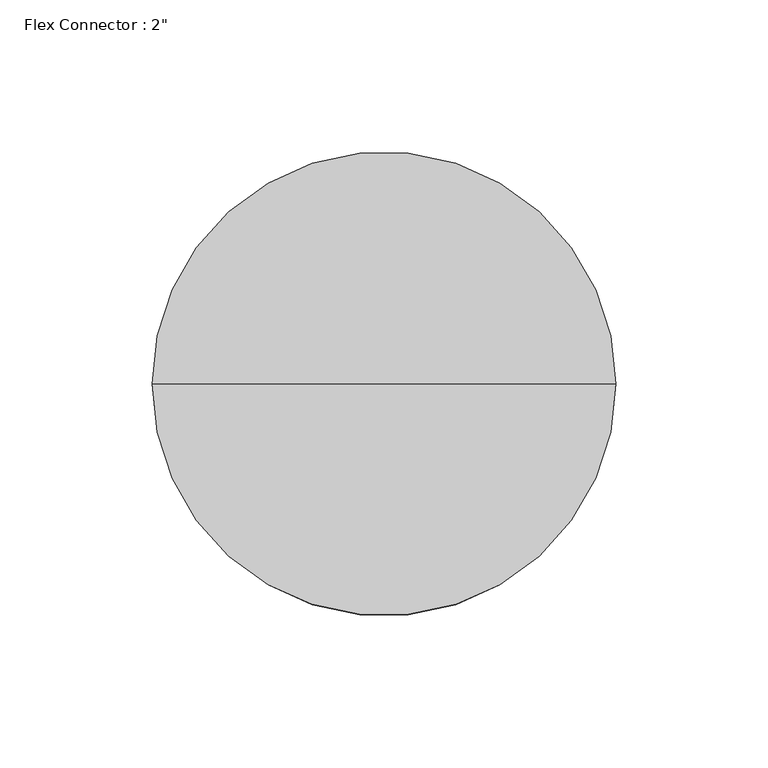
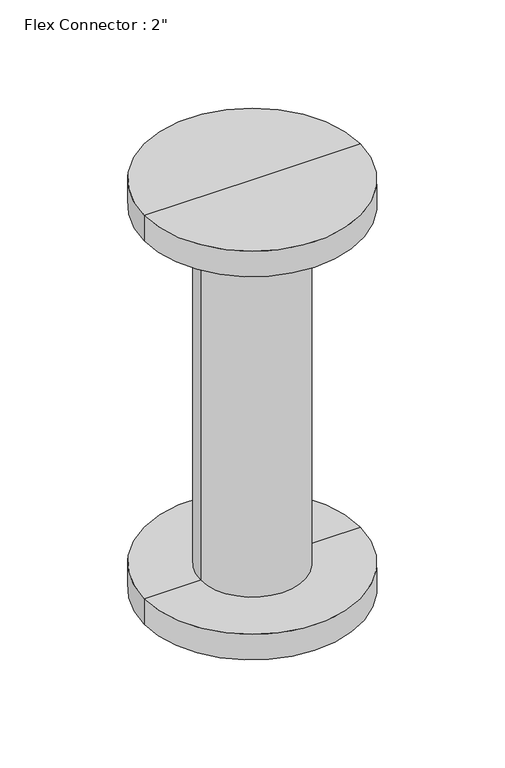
"""IFC4 building model written with IfcOpenShell, lengths in millimetres: valve geometry."""

from ifc_helpers import new_model, si_unit, frame, origin, place, context, project, spatial, circle_curve, source, transform, mapped, element, save
from ifc_brep_helpers import plane_surface, cylinder_surface, advanced_brep


def valve_64b1ed24(model_context):
    return source(origin(), model_context, "Body", "AdvancedBrep", [
        advanced_brep(
        [(36.5125, 0.0, 19.05), (-36.5125, 0.0, 19.05), (-36.5125, 0.0, 285.75), (36.5125, 0.0, 285.75), (0.0, 0.0, 19.05), (0.0, 0.0, 285.75)],
        [
            (0, 1, circle_curve(frame((0.0, 0.0, 19.05), z_axis=(0.0, 0.0, 1.0), x_axis=(-1.0, 0.0, 0.0)), 36.5125)),
            (1, 2),
            (2, 3, circle_curve(frame((0.0, 0.0, 285.75), z_axis=(0.0, 0.0, -1.0), x_axis=(-1.0, 0.0, 0.0)), 36.5125)),
            (3, 0),
            (1, 0, circle_curve(frame((0.0, 0.0, 19.05), z_axis=(0.0, 0.0, 1.0), x_axis=(-1.0, 0.0, 0.0)), 36.5125)),
            (3, 2, circle_curve(frame((0.0, 0.0, 285.75), z_axis=(0.0, 0.0, -1.0), x_axis=(-1.0, 0.0, 0.0)), 36.5125)),
            (4, 1),
            (0, 4),
            (2, 5),
            (5, 3),
        ],
        [
            cylinder_surface(frame((0.0, 0.0, 2613.8206012), z_axis=(0.0, 0.0, -1.0), x_axis=(-1.0, 0.0, 0.0)), 36.5125),
            plane_surface(frame((0.0, 0.0, 19.05), z_axis=(0.0, 0.0, -1.0), x_axis=(-1.0, 0.0, 0.0))),
            plane_surface(frame((0.0, 0.0, 285.75), z_axis=(0.0, 0.0, 1.0), x_axis=(-1.0, 0.0, 0.0))),
        ],
        [
            (0, [[1, 2, 3, 4]]),
            (0, [[5, -4, 6, -2]]),
            (1, [[7, -1, 8]]),
            (1, [[-8, -5, -7]]),
            (2, [[-3, 9, 10]]),
            (2, [[-6, -10, -9]]),
        ],
    ),
        advanced_brep(
        [(0.0, 0.0, 0.0), (-76.2, 0.0, 0.0), (76.2, 0.0, 0.0), (76.2, 0.0, 19.05), (-76.2, 0.0, 19.05), (0.0, 0.0, 19.05)],
        [
            (0, 1),
            (1, 2, circle_curve(frame((0.0, 0.0, 0.0), z_axis=(0.0, 0.0, -1.0), x_axis=(-1.0, 0.0, 0.0)), 76.2)),
            (2, 0),
            (2, 1, circle_curve(frame((0.0, 0.0, 0.0), z_axis=(0.0, 0.0, -1.0), x_axis=(-1.0, 0.0, 0.0)), 76.2)),
            (3, 4, circle_curve(frame((0.0, 0.0, 19.05), z_axis=(0.0, 0.0, 1.0), x_axis=(-1.0, 0.0, 0.0)), 76.2)),
            (4, 5),
            (5, 3),
            (4, 3, circle_curve(frame((0.0, 0.0, 19.05), z_axis=(0.0, 0.0, 1.0), x_axis=(-1.0, 0.0, 0.0)), 76.2)),
            (1, 4),
            (3, 2),
        ],
        [
            plane_surface(frame((0.0, 0.0, 0.0), z_axis=(0.0, 0.0, -1.0), x_axis=(-1.0, 0.0, 0.0))),
            plane_surface(frame((0.0, 0.0, 19.05), z_axis=(0.0, 0.0, 1.0), x_axis=(-1.0, 0.0, 0.0))),
            cylinder_surface(frame((0.0, 0.0, 2609.0581012), z_axis=(0.0, 0.0, -1.0), x_axis=(-1.0, 0.0, 0.0)), 76.2),
        ],
        [
            (0, [[1, 2, 3]]),
            (0, [[-3, 4, -1]]),
            (1, [[5, 6, 7]]),
            (1, [[8, -7, -6]]),
            (2, [[-2, 9, -5, 10]]),
            (2, [[-4, -10, -8, -9]]),
        ],
    ),
        advanced_brep(
        [(76.2, 0.0, 304.8), (-76.2, 0.0, 304.8), (0.0, 0.0, 304.8), (76.2, 0.0, 285.75), (-76.2, 0.0, 285.75), (0.0, 0.0, 285.75)],
        [
            (0, 1, circle_curve(frame((0.0, 0.0, 304.8), z_axis=(0.0, 0.0, 1.0), x_axis=(-1.0, 0.0, 0.0)), 76.2)),
            (1, 2),
            (2, 0),
            (1, 0, circle_curve(frame((0.0, 0.0, 304.8), z_axis=(0.0, 0.0, 1.0), x_axis=(-1.0, 0.0, 0.0)), 76.2)),
            (3, 4, circle_curve(frame((0.0, 0.0, 285.75), z_axis=(0.0, 0.0, 1.0), x_axis=(-1.0, 0.0, 0.0)), 76.2)),
            (4, 1),
            (0, 3),
            (4, 3, circle_curve(frame((0.0, 0.0, 285.75), z_axis=(0.0, 0.0, 1.0), x_axis=(-1.0, 0.0, 0.0)), 76.2)),
            (5, 4),
            (3, 5),
        ],
        [
            plane_surface(frame((0.0, 0.0, 304.8), z_axis=(0.0, 0.0, 1.0), x_axis=(-1.0, 0.0, 0.0))),
            cylinder_surface(frame((0.0, 0.0, 2609.0581012), z_axis=(0.0, 0.0, -1.0), x_axis=(-1.0, 0.0, 0.0)), 76.2),
            plane_surface(frame((0.0, 0.0, 285.75), z_axis=(0.0, 0.0, -1.0), x_axis=(-1.0, 0.0, 0.0))),
        ],
        [
            (0, [[1, 2, 3]]),
            (0, [[4, -3, -2]]),
            (1, [[5, 6, -1, 7]]),
            (1, [[8, -7, -4, -6]]),
            (2, [[9, -5, 10]]),
            (2, [[-10, -8, -9]]),
        ],
    ),
    ])


if __name__ == "__main__":
    model = new_model("IFC4")
    model_context = context("Model", 3, world=origin())
    ifc_project = project(units=[si_unit("LENGTHUNIT", "METRE", prefix="MILLI")], contexts=[model_context])
    site = spatial("IfcSite", under=ifc_project)
    building = spatial("IfcBuilding", under=site)
    placement = place(None, origin())
    valve_shape = valve_64b1ed24(model_context)
    element("IfcValve", 1, ObjectType="Flex Connector : 2\"", at=placement, inside=building, context=model_context, shape_type="MappedRepresentation", body=[
        mapped(valve_shape, transform((0.0, 0.0, 0.0), x_axis=(1.0, 0.0, 0.0), y_axis=(0.0, 1.0, 0.0), z_axis=(0.0, 0.0, 1.0))),
    ])
    save(model, "model.ifc")
